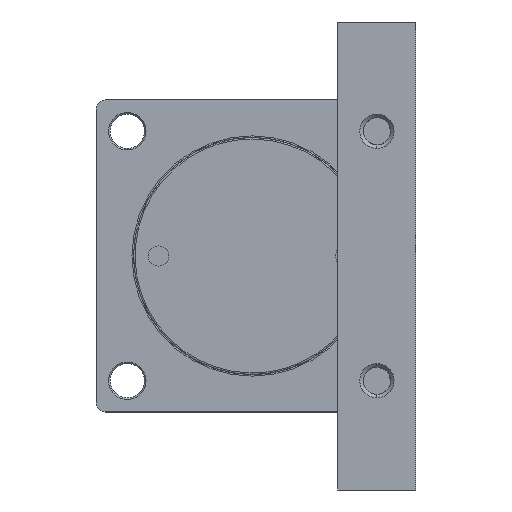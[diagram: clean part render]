
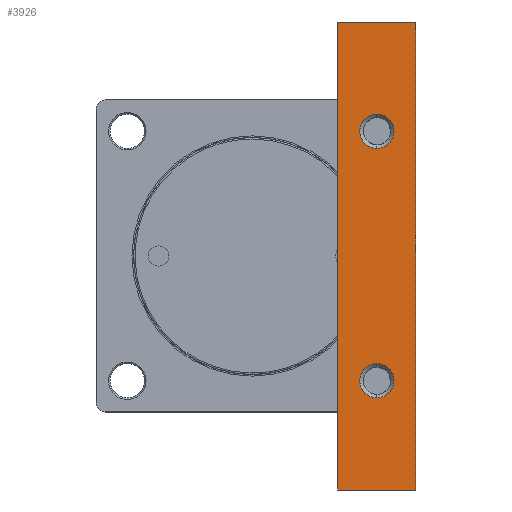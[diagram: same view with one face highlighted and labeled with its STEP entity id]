
A CAD part, left-side view. The second image highlights one B-rep face of the part: STEP entity #3926.
In plain terms, the highlighted planar face has unit normal (1, 0, 0).
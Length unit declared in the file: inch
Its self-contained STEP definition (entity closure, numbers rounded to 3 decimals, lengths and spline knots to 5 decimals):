
#62 = EDGE_LOOP ( 'NONE', ( #5407, #12920 ) ) ;
#92 = LINE ( 'NONE', #9787, #6125 ) ;
#130 = VERTEX_POINT ( 'NONE', #2568 ) ;
#233 = CARTESIAN_POINT ( 'NONE',  ( -3.3622, -2.16535, -5.90551 ) ) ;
#255 = VERTEX_POINT ( 'NONE', #3393 ) ;
#603 = CARTESIAN_POINT ( 'NONE',  ( -3.3622, -3.14961, -3.58268 ) ) ;
#829 = CARTESIAN_POINT ( 'NONE',  ( -3.3622, -2.16535, 5.90551 ) ) ;
#843 = PLANE ( 'NONE',  #3103 ) ;
#1161 = ORIENTED_EDGE ( 'NONE', *, *, #13133, .T. ) ;
#1542 = EDGE_LOOP ( 'NONE', ( #5664, #10020, #6130, #5537 ) ) ;
#2568 = CARTESIAN_POINT ( 'NONE',  ( -3.3622, -4.13386, -5.90551 ) ) ;
#2646 = CARTESIAN_POINT ( 'NONE',  ( -3.3622, -3.14961, 3.58268 ) ) ;
#2779 = DIRECTION ( 'NONE',  ( -1., 0., 0. ) ) ;
#3103 = AXIS2_PLACEMENT_3D ( 'NONE', #14608, #14625, #14560 ) ;
#3221 = VERTEX_POINT ( 'NONE', #2646 ) ;
#3368 = VERTEX_POINT ( 'NONE', #829 ) ;
#3393 = CARTESIAN_POINT ( 'NONE',  ( -3.3622, -4.13386, 5.90551 ) ) ;
#3540 = DIRECTION ( 'NONE',  ( 0., 0., 1. ) ) ;
#3551 = VERTEX_POINT ( 'NONE', #233 ) ;
#3926 = ADVANCED_FACE ( 'NONE', ( #7375, #7415, #6975 ), #843, .T. ) ;
#4197 = VERTEX_POINT ( 'NONE', #13372 ) ;
#4677 = CARTESIAN_POINT ( 'NONE',  ( -3.3622, -3.14961, 3.14961 ) ) ;
#5381 = LINE ( 'NONE', #5917, #7658 ) ;
#5407 = ORIENTED_EDGE ( 'NONE', *, *, #9683, .T. ) ;
#5537 = ORIENTED_EDGE ( 'NONE', *, *, #6639, .T. ) ;
#5549 = ORIENTED_EDGE ( 'NONE', *, *, #8538, .T. ) ;
#5664 = ORIENTED_EDGE ( 'NONE', *, *, #9002, .T. ) ;
#5755 = VERTEX_POINT ( 'NONE', #603 ) ;
#5911 = CARTESIAN_POINT ( 'NONE',  ( -3.3622, -3.14961, 3.14961 ) ) ;
#5917 = CARTESIAN_POINT ( 'NONE',  ( -3.3622, -4.13386, 5.90551 ) ) ;
#6125 = VECTOR ( 'NONE', #6592, 39.37008 ) ;
#6130 = ORIENTED_EDGE ( 'NONE', *, *, #11818, .T. ) ;
#6182 = AXIS2_PLACEMENT_3D ( 'NONE', #4677, #11264, #3540 ) ;
#6302 = VERTEX_POINT ( 'NONE', #6773 ) ;
#6592 = DIRECTION ( 'NONE',  ( 0., 0., 1. ) ) ;
#6639 = EDGE_CURVE ( 'NONE', #130, #3551, #10213, .T. ) ;
#6662 = DIRECTION ( 'NONE',  ( -1., 0., 0. ) ) ;
#6773 = CARTESIAN_POINT ( 'NONE',  ( -3.3622, -3.14961, -2.71654 ) ) ;
#6874 = DIRECTION ( 'NONE',  ( 0., 0., 1. ) ) ;
#6895 = DIRECTION ( 'NONE',  ( 0., 0., -1. ) ) ;
#6923 = CARTESIAN_POINT ( 'NONE',  ( -3.3622, -3.14961, -3.14961 ) ) ;
#6975 = FACE_BOUND ( 'NONE', #62, .T. ) ;
#7100 = DIRECTION ( 'NONE',  ( 0., 0., 1. ) ) ;
#7103 = DIRECTION ( 'NONE',  ( -1., 0., 0. ) ) ;
#7113 = CARTESIAN_POINT ( 'NONE',  ( -3.3622, -3.14961, -3.14961 ) ) ;
#7135 = EDGE_CURVE ( 'NONE', #5755, #6302, #11117, .T. ) ;
#7375 = FACE_OUTER_BOUND ( 'NONE', #1542, .T. ) ;
#7415 = FACE_BOUND ( 'NONE', #12725, .T. ) ;
#7658 = VECTOR ( 'NONE', #6895, 39.37008 ) ;
#7841 = AXIS2_PLACEMENT_3D ( 'NONE', #5911, #6662, #8209 ) ;
#7907 = CIRCLE ( 'NONE', #10415, 0.43307 ) ;
#8209 = DIRECTION ( 'NONE',  ( 0., 0., 1. ) ) ;
#8538 = EDGE_CURVE ( 'NONE', #4197, #3221, #12605, .T. ) ;
#8757 = CIRCLE ( 'NONE', #7841, 0.43307 ) ;
#9002 = EDGE_CURVE ( 'NONE', #3551, #3368, #92, .T. ) ;
#9683 = EDGE_CURVE ( 'NONE', #6302, #5755, #7907, .T. ) ;
#9787 = CARTESIAN_POINT ( 'NONE',  ( -3.3622, -2.16535, 5.90551 ) ) ;
#10020 = ORIENTED_EDGE ( 'NONE', *, *, #13427, .T. ) ;
#10213 = LINE ( 'NONE', #12595, #10742 ) ;
#10415 = AXIS2_PLACEMENT_3D ( 'NONE', #6923, #2779, #6874 ) ;
#10742 = VECTOR ( 'NONE', #12297, 39.37008 ) ;
#11117 = CIRCLE ( 'NONE', #14629, 0.43307 ) ;
#11256 = CARTESIAN_POINT ( 'NONE',  ( -3.3622, -4.13386, 5.90551 ) ) ;
#11264 = DIRECTION ( 'NONE',  ( -1., 0., 0. ) ) ;
#11818 = EDGE_CURVE ( 'NONE', #255, #130, #5381, .T. ) ;
#12297 = DIRECTION ( 'NONE',  ( 0., 1., 0. ) ) ;
#12595 = CARTESIAN_POINT ( 'NONE',  ( -3.3622, -4.13386, -5.90551 ) ) ;
#12605 = CIRCLE ( 'NONE', #6182, 0.43307 ) ;
#12725 = EDGE_LOOP ( 'NONE', ( #1161, #5549 ) ) ;
#12920 = ORIENTED_EDGE ( 'NONE', *, *, #7135, .T. ) ;
#13133 = EDGE_CURVE ( 'NONE', #3221, #4197, #8757, .T. ) ;
#13372 = CARTESIAN_POINT ( 'NONE',  ( -3.3622, -3.14961, 2.71654 ) ) ;
#13427 = EDGE_CURVE ( 'NONE', #3368, #255, #13550, .T. ) ;
#13504 = VECTOR ( 'NONE', #14454, 39.37008 ) ;
#13550 = LINE ( 'NONE', #11256, #13504 ) ;
#14454 = DIRECTION ( 'NONE',  ( 0., -1., 0. ) ) ;
#14560 = DIRECTION ( 'NONE',  ( 0., 0., -1. ) ) ;
#14608 = CARTESIAN_POINT ( 'NONE',  ( -3.3622, -4.13386, 5.90551 ) ) ;
#14625 = DIRECTION ( 'NONE',  ( 1., 0., 0. ) ) ;
#14629 = AXIS2_PLACEMENT_3D ( 'NONE', #7113, #7103, #7100 ) ;
